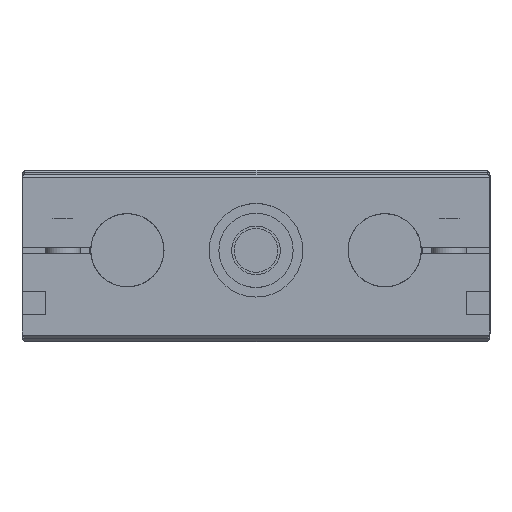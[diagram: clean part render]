
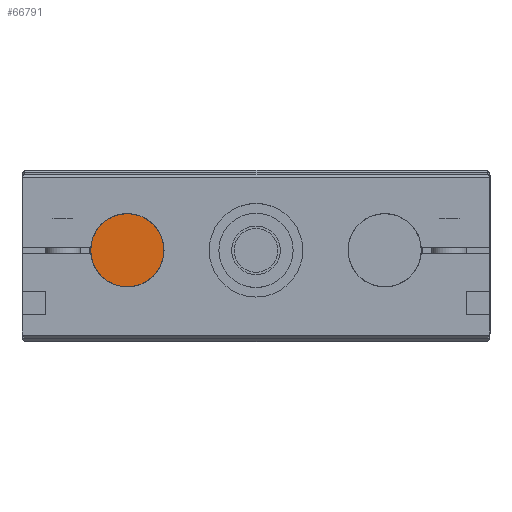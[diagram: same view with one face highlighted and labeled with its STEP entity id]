
A CAD part, top view. The second image highlights one B-rep face of the part: STEP entity #66791.
In plain terms, the highlighted planar face has unit normal (0, 0, 1) as drawn and (1, 0, 0) by its records, which use the part's own axes.
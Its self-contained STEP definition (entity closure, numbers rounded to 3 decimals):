
#454 = AXIS2_PLACEMENT_3D ( 'NONE', #38416, #59431, #64952 ) ;
#5597 = ORIENTED_EDGE ( 'NONE', *, *, #33283, .T. ) ;
#12024 = VERTEX_POINT ( 'NONE', #45442 ) ;
#13988 = VERTEX_POINT ( 'NONE', #22425 ) ;
#15790 = DIRECTION ( 'NONE',  ( 0., 0., -1. ) ) ;
#20570 = PLANE ( 'NONE',  #24869 ) ;
#22425 = CARTESIAN_POINT ( 'NONE',  ( 385., 30., 56.5 ) ) ;
#24869 = AXIS2_PLACEMENT_3D ( 'NONE', #41549, #62586, #57417 ) ;
#28756 = CIRCLE ( 'NONE', #47485, 12.5 ) ;
#30013 = EDGE_LOOP ( 'NONE', ( #5597, #66333 ) ) ;
#33283 = EDGE_CURVE ( 'NONE', #12024, #13988, #65389, .T. ) ;
#38416 = CARTESIAN_POINT ( 'NONE',  ( 385., 30., 44. ) ) ;
#41549 = CARTESIAN_POINT ( 'NONE',  ( 385., 30., 44. ) ) ;
#45442 = CARTESIAN_POINT ( 'NONE',  ( 385., 30., 31.5 ) ) ;
#47485 = AXIS2_PLACEMENT_3D ( 'NONE', #62991, #58495, #15790 ) ;
#49086 = EDGE_CURVE ( 'NONE', #13988, #12024, #28756, .T. ) ;
#57417 = DIRECTION ( 'NONE',  ( 0., 0., -1. ) ) ;
#58495 = DIRECTION ( 'NONE',  ( 1., 0., 0. ) ) ;
#59431 = DIRECTION ( 'NONE',  ( 1., 0., 0. ) ) ;
#62586 = DIRECTION ( 'NONE',  ( 1., 0., 0. ) ) ;
#62991 = CARTESIAN_POINT ( 'NONE',  ( 385., 30., 44. ) ) ;
#64952 = DIRECTION ( 'NONE',  ( 0., 0., -1. ) ) ;
#65389 = CIRCLE ( 'NONE', #454, 12.5 ) ;
#66333 = ORIENTED_EDGE ( 'NONE', *, *, #49086, .T. ) ;
#66791 = ADVANCED_FACE ( 'NONE', ( #67750 ), #20570, .T. ) ;
#67750 = FACE_OUTER_BOUND ( 'NONE', #30013, .T. ) ;
